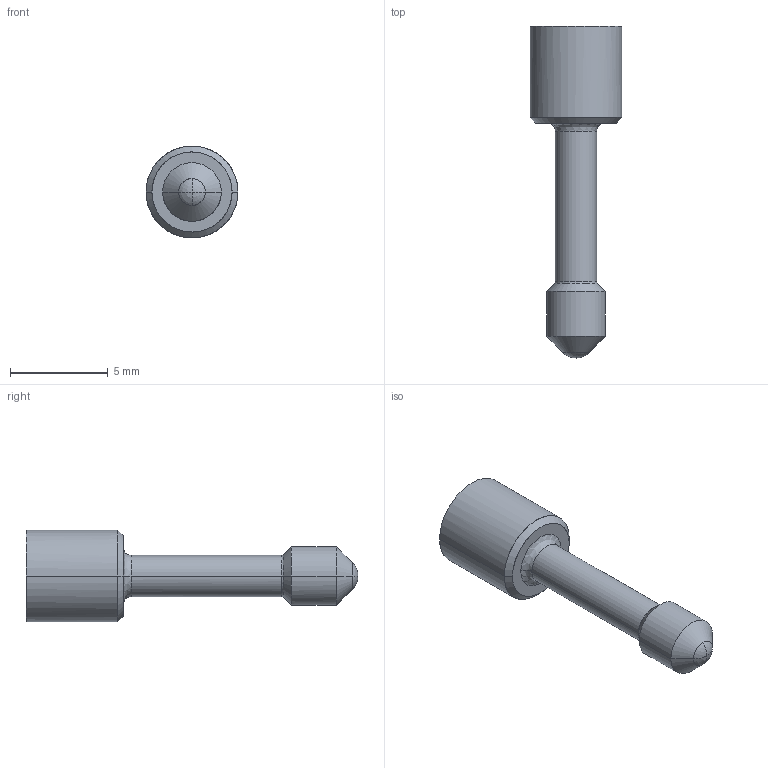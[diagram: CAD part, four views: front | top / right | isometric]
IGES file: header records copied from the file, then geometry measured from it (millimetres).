
Start section: START RECORD GO HERE.
Global section: file name: ia4717sf.igs; native system: DASSAULT SYSTEMES CATIA V5 R20 - www.3ds.com; preprocessor: CATIA Version 5 Release 20 ; author: Utente; organization: NB04-ASUS; date: 20201108.074504; units: millimetre
Bounding box: 4.7 x 16.97 x 4.7 mm (x, y, z)
Surface area: 194.4 mm2 (no closed solid volume)
Topology: 0 solids, 0 shells, 31 faces, 133 edges, 132 vertices
Faces by surface type: revolution 22, plane 9
